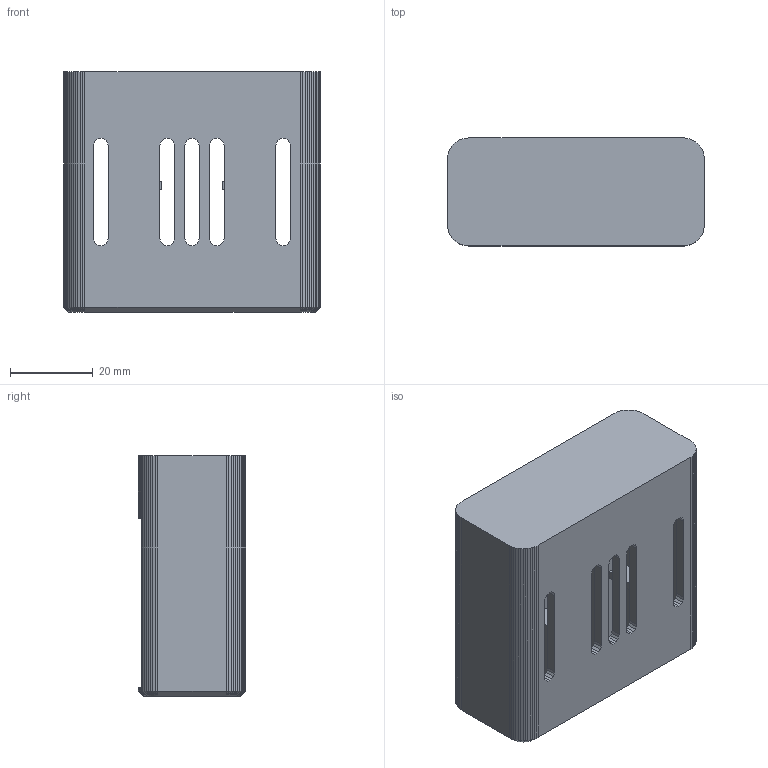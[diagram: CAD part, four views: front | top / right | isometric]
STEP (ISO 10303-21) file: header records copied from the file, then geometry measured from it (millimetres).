
FILE_DESCRIPTION(('Open CASCADE Model'),'2;1');
FILE_NAME('Open CASCADE Shape Model','2026-08-07T13:51:17',('Author'),( 'Open CASCADE'),'Open CASCADE STEP processor 7.9','Open CASCADE 7.9' ,'Unknown');
FILE_SCHEMA(('AUTOMOTIVE_DESIGN { 1 0 10303 214 1 1 1 1 }'));
Length unit declared in the file: millimetre
Products named in the file (1): 感測器艙
Bounding box: 61.99 x 26 x 58 mm (x, y, z)
Volume: 25226.4 mm3; surface area: 21886.4 mm2
Topology: 1 solids, 1 shells, 376 faces, 940 edges, 568 vertices
Faces by surface type: plane 376
Entity records: 22994 total; most frequent: CARTESIAN_POINT 3765, DIRECTION 3574, LINE 2820, VECTOR 2820, ORIENTED_EDGE 1880, PCURVE 1880, DEFINITIONAL_REPRESENTATION 1880, EDGE_CURVE 940
